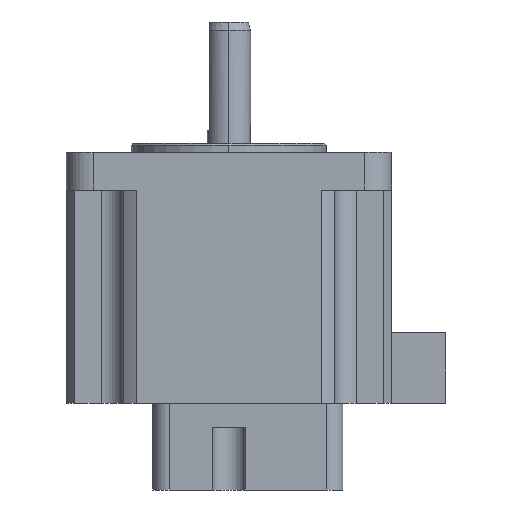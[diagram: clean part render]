
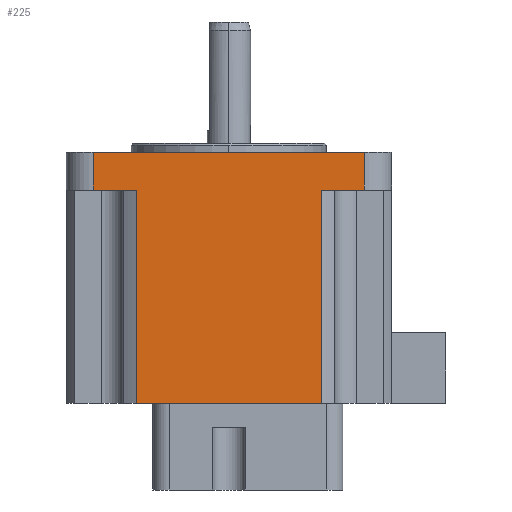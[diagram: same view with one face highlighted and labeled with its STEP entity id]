
A CAD part, left-side view. The second image highlights one B-rep face of the part: STEP entity #225.
In plain terms, the highlighted planar face has unit normal (-1, 0, 0).
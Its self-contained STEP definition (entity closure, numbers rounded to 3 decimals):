
#99 = VECTOR ( 'NONE', #334, 1000. ) ;
#116 = DIRECTION ( 'NONE',  ( 0., 0., 1. ) ) ;
#162 = DIRECTION ( 'NONE',  ( 0., 1., 0. ) ) ;
#225 = ADVANCED_FACE ( 'NONE', ( #267 ), #691, .F. ) ;
#235 = DIRECTION ( 'NONE',  ( 1., 0., 0. ) ) ;
#267 = FACE_OUTER_BOUND ( 'NONE', #2128, .T. ) ;
#283 = CARTESIAN_POINT ( 'NONE',  ( -30., -25., -8.6 ) ) ;
#286 = VERTEX_POINT ( 'NONE', #701 ) ;
#289 = CARTESIAN_POINT ( 'NONE',  ( -30., -17.037, -8.6 ) ) ;
#334 = DIRECTION ( 'NONE',  ( 0., 0., -1. ) ) ;
#354 = VERTEX_POINT ( 'NONE', #1398 ) ;
#376 = CARTESIAN_POINT ( 'NONE',  ( -30., 0., -47.9 ) ) ;
#377 = DIRECTION ( 'NONE',  ( 0., 1., 0. ) ) ;
#378 = VECTOR ( 'NONE', #2160, 1000. ) ;
#441 = VERTEX_POINT ( 'NONE', #289 ) ;
#452 = ORIENTED_EDGE ( 'NONE', *, *, #2074, .F. ) ;
#491 = LINE ( 'NONE', #1396, #757 ) ;
#520 = VECTOR ( 'NONE', #377, 1000. ) ;
#547 = CARTESIAN_POINT ( 'NONE',  ( -30., 25., -8.6 ) ) ;
#592 = CARTESIAN_POINT ( 'NONE',  ( -30., -17.037, -47.9 ) ) ;
#596 = DIRECTION ( 'NONE',  ( 0., 1., 0. ) ) ;
#647 = ORIENTED_EDGE ( 'NONE', *, *, #1276, .T. ) ;
#691 = PLANE ( 'NONE',  #826 ) ;
#692 = ORIENTED_EDGE ( 'NONE', *, *, #1645, .T. ) ;
#701 = CARTESIAN_POINT ( 'NONE',  ( -30., 25., -8.6 ) ) ;
#757 = VECTOR ( 'NONE', #1621, 1000. ) ;
#826 = AXIS2_PLACEMENT_3D ( 'NONE', #2242, #235, #2043 ) ;
#930 = VERTEX_POINT ( 'NONE', #2087 ) ;
#1142 = EDGE_CURVE ( 'NONE', #1216, #441, #1509, .T. ) ;
#1152 = LINE ( 'NONE', #592, #1928 ) ;
#1156 = LINE ( 'NONE', #1934, #520 ) ;
#1216 = VERTEX_POINT ( 'NONE', #283 ) ;
#1276 = EDGE_CURVE ( 'NONE', #2573, #1463, #491, .T. ) ;
#1291 = CARTESIAN_POINT ( 'NONE',  ( -30., -25., -1.6 ) ) ;
#1385 = LINE ( 'NONE', #547, #99 ) ;
#1393 = EDGE_CURVE ( 'NONE', #1463, #286, #1385, .T. ) ;
#1396 = CARTESIAN_POINT ( 'NONE',  ( -30., 30., -1.6 ) ) ;
#1398 = CARTESIAN_POINT ( 'NONE',  ( -30., -17.037, -47.9 ) ) ;
#1412 = VECTOR ( 'NONE', #116, 1000. ) ;
#1463 = VERTEX_POINT ( 'NONE', #2278 ) ;
#1471 = ORIENTED_EDGE ( 'NONE', *, *, #2626, .F. ) ;
#1491 = CARTESIAN_POINT ( 'NONE',  ( -30., -25., -8.6 ) ) ;
#1509 = LINE ( 'NONE', #1736, #2310 ) ;
#1556 = VECTOR ( 'NONE', #596, 1000. ) ;
#1621 = DIRECTION ( 'NONE',  ( 0., 1., 0. ) ) ;
#1645 = EDGE_CURVE ( 'NONE', #354, #441, #1152, .T. ) ;
#1736 = CARTESIAN_POINT ( 'NONE',  ( -30., 30., -8.6 ) ) ;
#1754 = EDGE_CURVE ( 'NONE', #1216, #2573, #1897, .T. ) ;
#1869 = CARTESIAN_POINT ( 'NONE',  ( -30., 17.037, -47.9 ) ) ;
#1897 = LINE ( 'NONE', #1491, #378 ) ;
#1928 = VECTOR ( 'NONE', #2340, 1000. ) ;
#1934 = CARTESIAN_POINT ( 'NONE',  ( -30., 30., -8.6 ) ) ;
#2043 = DIRECTION ( 'NONE',  ( 0., 1., 0. ) ) ;
#2074 = EDGE_CURVE ( 'NONE', #930, #2334, #2461, .T. ) ;
#2087 = CARTESIAN_POINT ( 'NONE',  ( -30., 17.037, -47.9 ) ) ;
#2104 = LINE ( 'NONE', #376, #1556 ) ;
#2116 = ORIENTED_EDGE ( 'NONE', *, *, #1754, .T. ) ;
#2128 = EDGE_LOOP ( 'NONE', ( #2451, #2116, #647, #2209, #1471, #452, #2507, #692 ) ) ;
#2144 = EDGE_CURVE ( 'NONE', #354, #930, #2104, .T. ) ;
#2160 = DIRECTION ( 'NONE',  ( 0., 0., 1. ) ) ;
#2209 = ORIENTED_EDGE ( 'NONE', *, *, #1393, .T. ) ;
#2242 = CARTESIAN_POINT ( 'NONE',  ( -30., 30., -8.6 ) ) ;
#2278 = CARTESIAN_POINT ( 'NONE',  ( -30., 25., -1.6 ) ) ;
#2310 = VECTOR ( 'NONE', #162, 1000. ) ;
#2334 = VERTEX_POINT ( 'NONE', #2554 ) ;
#2340 = DIRECTION ( 'NONE',  ( 0., 0., 1. ) ) ;
#2451 = ORIENTED_EDGE ( 'NONE', *, *, #1142, .F. ) ;
#2461 = LINE ( 'NONE', #1869, #1412 ) ;
#2507 = ORIENTED_EDGE ( 'NONE', *, *, #2144, .F. ) ;
#2554 = CARTESIAN_POINT ( 'NONE',  ( -30., 17.037, -8.6 ) ) ;
#2573 = VERTEX_POINT ( 'NONE', #1291 ) ;
#2626 = EDGE_CURVE ( 'NONE', #2334, #286, #1156, .T. ) ;
